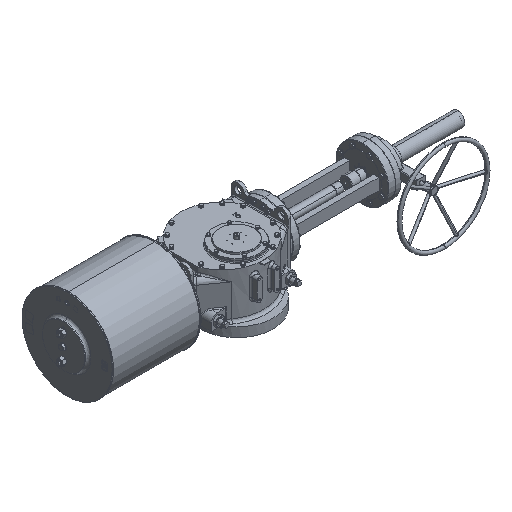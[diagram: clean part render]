
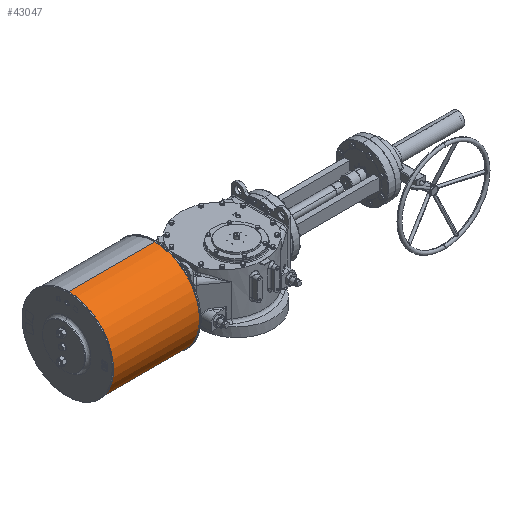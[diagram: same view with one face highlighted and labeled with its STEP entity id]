
A CAD part, isometric view. The second image highlights one B-rep face of the part: STEP entity #43047.
In plain terms, the highlighted cylindrical face has radius 254 mm (diameter 508 mm), a partial arc.
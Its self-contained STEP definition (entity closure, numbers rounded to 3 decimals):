
#3332 = VERTEX_POINT ( 'NONE', #122429 ) ;
#6199 = LINE ( 'NONE', #45312, #36043 ) ;
#8316 = EDGE_LOOP ( 'NONE', ( #107142, #35470, #44894, #59603 ) ) ;
#14483 = DIRECTION ( 'NONE',  ( -1., 0., 0. ) ) ;
#16345 = AXIS2_PLACEMENT_3D ( 'NONE', #94224, #74099, #17386 ) ;
#17386 = DIRECTION ( 'NONE',  ( 0., 0., 1. ) ) ;
#20970 = DIRECTION ( 'NONE',  ( 0., 0., 1. ) ) ;
#22142 = VERTEX_POINT ( 'NONE', #43025 ) ;
#25206 = DIRECTION ( 'NONE',  ( 0., 0., 1. ) ) ;
#27408 = CARTESIAN_POINT ( 'NONE',  ( -325.5, 140., -141. ) ) ;
#28864 = CARTESIAN_POINT ( 'NONE',  ( -325.5, 140., -141. ) ) ;
#29211 = CARTESIAN_POINT ( 'NONE',  ( -815.5, 140., 113. ) ) ;
#29986 = EDGE_CURVE ( 'NONE', #51301, #119476, #74646, .T. ) ;
#34075 = VECTOR ( 'NONE', #36235, 1000. ) ;
#35470 = ORIENTED_EDGE ( 'NONE', *, *, #105754, .T. ) ;
#36043 = VECTOR ( 'NONE', #81186, 1000. ) ;
#36235 = DIRECTION ( 'NONE',  ( -1., 0., 0. ) ) ;
#38039 = AXIS2_PLACEMENT_3D ( 'NONE', #112125, #14483, #25206 ) ;
#43025 = CARTESIAN_POINT ( 'NONE',  ( -815.5, 140., 367. ) ) ;
#43047 = ADVANCED_FACE ( 'NONE', ( #73081 ), #54801, .T. ) ;
#44894 = ORIENTED_EDGE ( 'NONE', *, *, #116523, .T. ) ;
#45312 = CARTESIAN_POINT ( 'NONE',  ( -325.5, 140., 367. ) ) ;
#51301 = VERTEX_POINT ( 'NONE', #28864 ) ;
#54801 = CYLINDRICAL_SURFACE ( 'NONE', #38039, 254. ) ;
#59603 = ORIENTED_EDGE ( 'NONE', *, *, #122842, .T. ) ;
#73081 = FACE_OUTER_BOUND ( 'NONE', #8316, .T. ) ;
#74099 = DIRECTION ( 'NONE',  ( -1., 0., 0. ) ) ;
#74646 = LINE ( 'NONE', #27408, #34075 ) ;
#78658 = CIRCLE ( 'NONE', #16345, 254. ) ;
#81186 = DIRECTION ( 'NONE',  ( -1., 0., 0. ) ) ;
#94224 = CARTESIAN_POINT ( 'NONE',  ( -325.5, 140., 113. ) ) ;
#97700 = CARTESIAN_POINT ( 'NONE',  ( -815.5, 140., -141. ) ) ;
#105754 = EDGE_CURVE ( 'NONE', #51301, #3332, #78658, .T. ) ;
#106480 = AXIS2_PLACEMENT_3D ( 'NONE', #29211, #106674, #20970 ) ;
#106674 = DIRECTION ( 'NONE',  ( 1., 0., 0. ) ) ;
#107142 = ORIENTED_EDGE ( 'NONE', *, *, #29986, .F. ) ;
#108533 = CIRCLE ( 'NONE', #106480, 254. ) ;
#112125 = CARTESIAN_POINT ( 'NONE',  ( -325.5, 140., 113. ) ) ;
#116523 = EDGE_CURVE ( 'NONE', #3332, #22142, #6199, .T. ) ;
#119476 = VERTEX_POINT ( 'NONE', #97700 ) ;
#122429 = CARTESIAN_POINT ( 'NONE',  ( -325.5, 140., 367. ) ) ;
#122842 = EDGE_CURVE ( 'NONE', #22142, #119476, #108533, .T. ) ;
